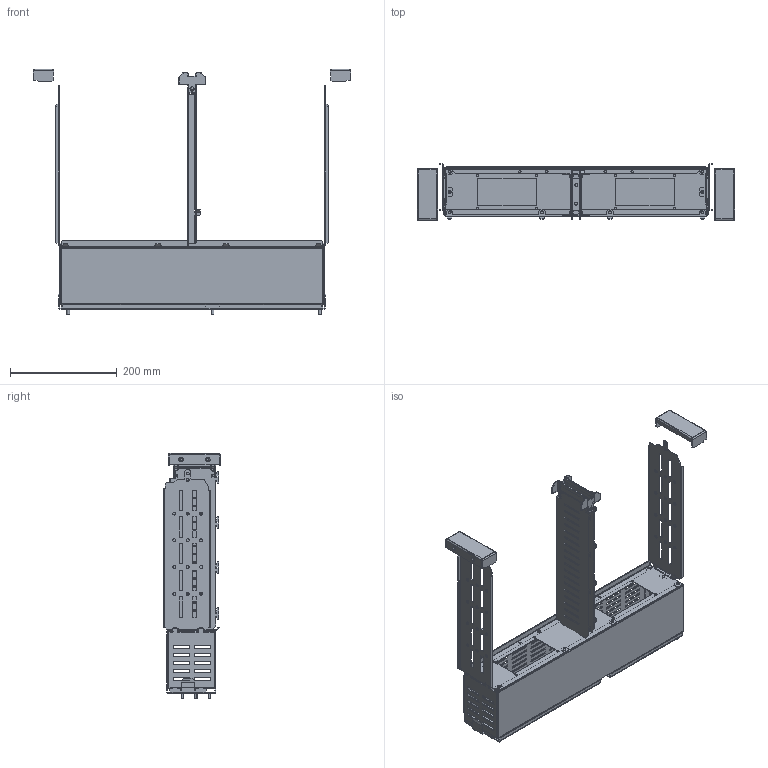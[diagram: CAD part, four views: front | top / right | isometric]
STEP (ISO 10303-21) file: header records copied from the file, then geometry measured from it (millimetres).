
FILE_DESCRIPTION(('CAx-IF Rec.Pracs.---Model Styling and Organization---1.2---2011-12-15','CAx-IF Rec.Pracs.---Geometric and Assembly Validation Properties---4.1---2014-06-16','CAx-IF Rec.Pracs.---PMI Polyline Presentation---2.0---2013-05-24'),'2;1');
FILE_NAME('R5M2W2M2A.stp','2021-05-05T12:08:30+03:00',(''),(''),'STEP Interface 4.4 by CT CoreTechnologie','3D_Evolution4.4 by CT CoreTechnologie','');
FILE_SCHEMA(('AUTOMOTIVE_DESIGN { 1 0 10303 214 1 1 1 1 }'));
Length unit declared in the file: millimetre
Products named in the file (14): R5M2W2M2A; M5x8-DIN7500C_stright; RB.1246.00.00.0_-03; RB.1426.00.00.0_-00; RB.1285.00.00.0_-00; RB.1285.00.00.0_-01; RB.1251.00.00.0_-00 (for assembly); RB.1252.00.00.0_-00; RB.1282.00.00.0_-00; ÒÏÀ.09.0004.00.00.2_¡¥§ § æ¥¯®¢; RB.0908.00.00.0_-00; RB.1421.00.00.0_-00; RB.1599.00.00.0_-00; RB.1622.00.00.0_-00
Assembly tree (39 placements, depth 2):
  R5M2W2M2A
    M5x8-DIN7500C_stright  x22
    RB.1246.00.00.0_-03
    RB.1426.00.00.0_-00  x4
    RB.1285.00.00.0_-00
    RB.1285.00.00.0_-01
    RB.1251.00.00.0_-00 (for assembly)
    RB.1252.00.00.0_-00
    RB.1282.00.00.0_-00
    ÒÏÀ.09.0004.00.00.2_¡¥§ § æ¥¯®¢  x2
    RB.0908.00.00.0_-00  x2
    RB.1421.00.00.0_-00
    RB.1599.00.00.0_-00
    RB.1622.00.00.0_-00
Bounding box: 594 x 106 x 458.6 mm (x, y, z)
Surface area: 781818.6 mm2 (no closed solid volume)
Topology: 0 solids, 41 shells, 1960 faces, 5381 edges, 3477 vertices
Faces by surface type: plane 1396, cylinder 386, bspline 178
Entity records: 55221 total; most frequent: CARTESIAN_POINT 11389, ORIENTED_EDGE 9118, DIRECTION 8303, EDGE_CURVE 4561, VECTOR 3829, LINE 3829, VERTEX_POINT 2967, AXIS2_PLACEMENT_3D 2237
